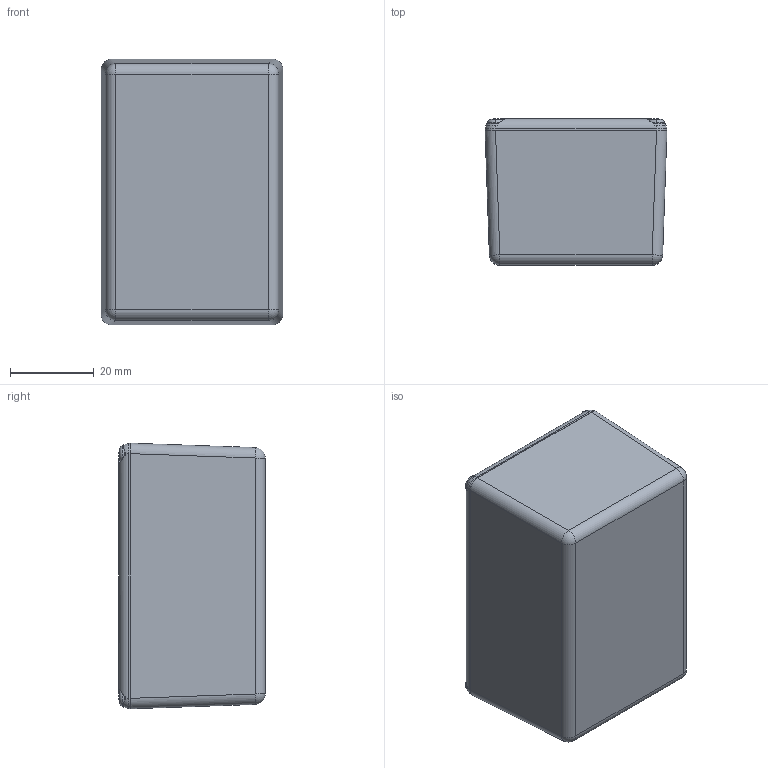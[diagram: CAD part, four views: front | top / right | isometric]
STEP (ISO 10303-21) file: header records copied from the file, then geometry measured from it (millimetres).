
FILE_DESCRIPTION (( 'STEP AP214' ), '1' );
FILE_NAME ('BMC 209D.STEP', '2021-03-26T22:33:01', ( '' ), ( '' ), 'SwSTEP 2.0', 'SolidWorks 2016', '' );
FILE_SCHEMA (( 'AUTOMOTIVE_DESIGN' ));
Length unit declared in the file: millimetre
Products named in the file (4): BMC Screw; BMC-209D Top; BMC-209D Bottom; BMC 209D
Assembly tree (6 placements, depth 2):
  BMC 209D
    BMC-209D Bottom
    BMC-209D Top
    BMC Screw  x4
Bounding box: 43.5 x 35 x 63.5 mm (x, y, z)
Volume: 17978.6 mm3; surface area: 25038.7 mm2
Topology: 6 solids, 6 shells, 910 faces, 2413 edges, 1596 vertices
Faces by surface type: plane 472, bspline 326, cylinder 56, cone 40, sphere 8, torus 8
Entity records: 40256 total; most frequent: CARTESIAN_POINT 22362, ORIENTED_EDGE 4254, DIRECTION 2545, EDGE_CURVE 2127, VERTEX_POINT 1410, LINE 1289, VECTOR 1289, EDGE_LOOP 883
